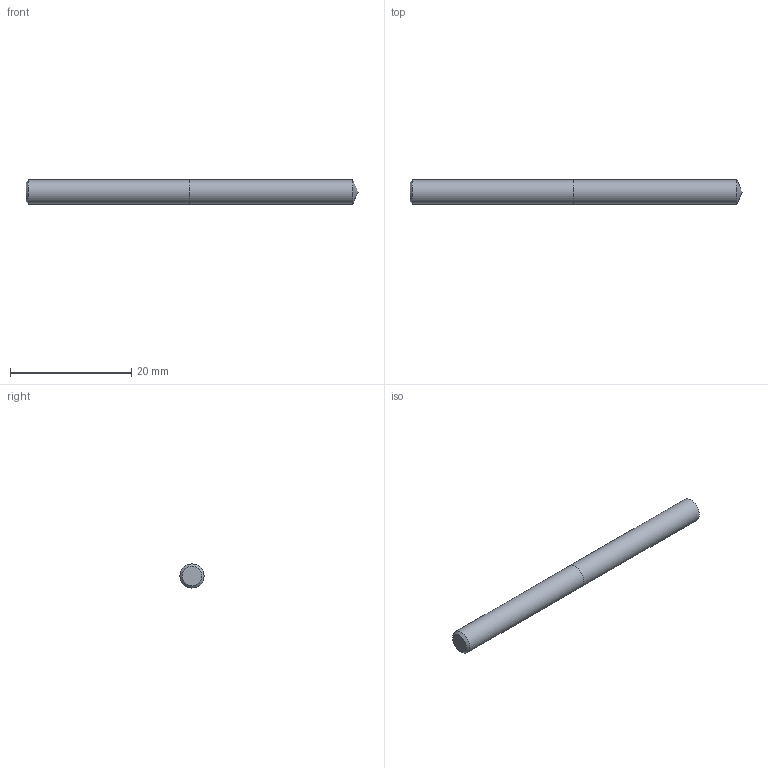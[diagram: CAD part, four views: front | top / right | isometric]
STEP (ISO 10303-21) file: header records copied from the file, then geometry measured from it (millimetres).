
FILE_DESCRIPTION (( 'STEP AP214' ), '1' );
FILE_NAME ('03-2364.STEP', '2022-06-03T06:46:20', ( 'USER' ), ( '' ), 'SwSTEP 2.0', 'SolidWorks 2018', '' );
FILE_SCHEMA (( 'AUTOMOTIVE_DESIGN' ));
Length unit declared in the file: inch
Products named in the file (1): 03-2364
Bounding box: 54.8 x 3.99 x 3.99 mm (x, y, z)
Volume: 676.6 mm3; surface area: 724.1 mm2
Topology: 2 solids, 2 shells, 7 faces, 11 edges, 7 vertices
Faces by surface type: plane 3, cylinder 2, cone 2
Full cylindrical faces by diameter (mm): 3.988 x2
Entity records: 214 total; most frequent: DIRECTION 26, CARTESIAN_POINT 18, AXIS2_PLACEMENT_3D 13, EDGE_LOOP 10, ORIENTED_EDGE 10, FACE_OUTER_BOUND 9, ADVANCED_FACE 7, LENGTH_MEASURE_WITH_UNIT 7
